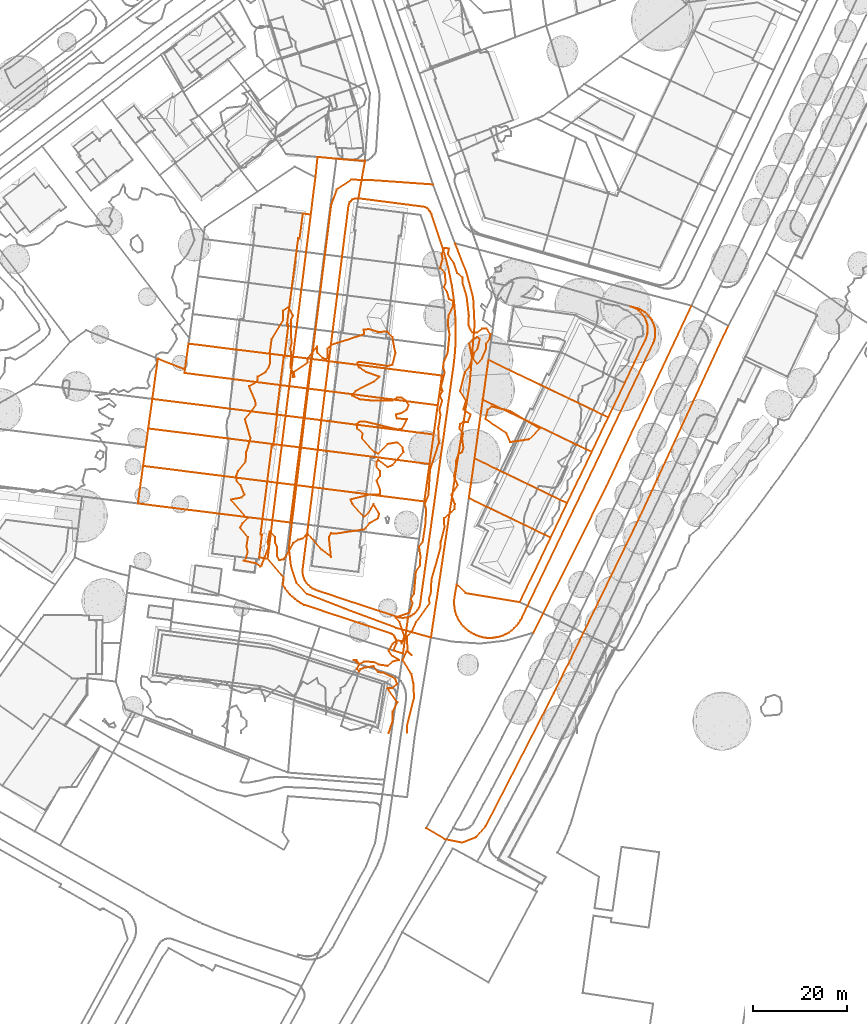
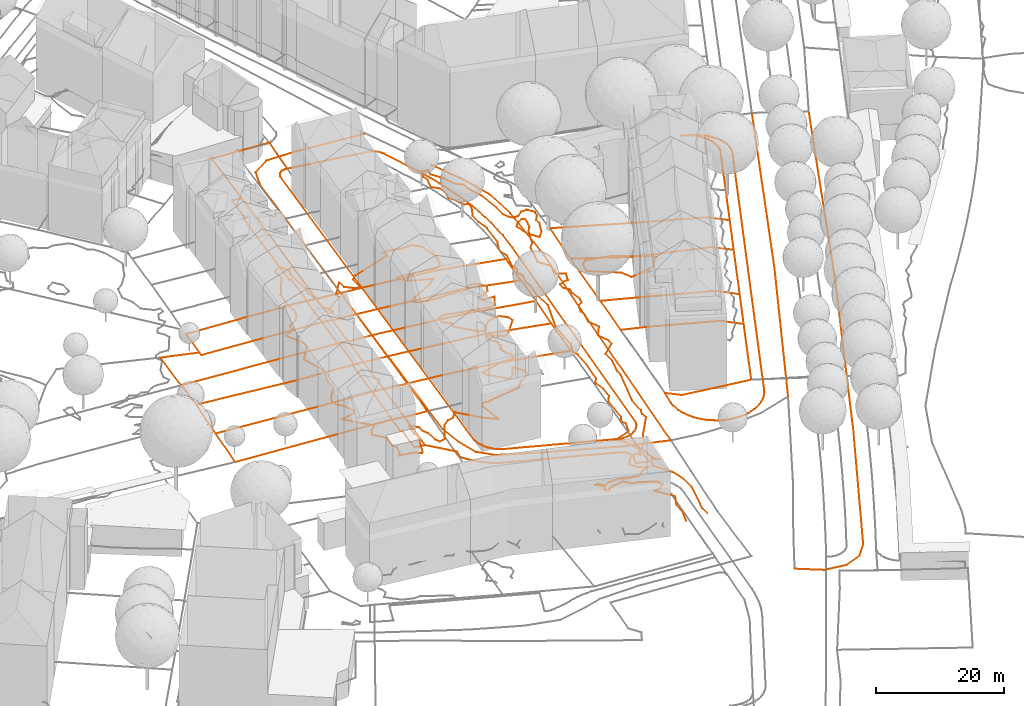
# Not in any storey, part 133 of 477: 15 geographic elements, 8 civil elements.
"""IFC4 model written with IfcOpenShell, lengths in metres."""

import ifcopenshell
import ifcopenshell.guid

model = None  # the IFC model being written
_history = None  # IfcOwnerHistory: only IFC2X3 demands one
_inside = {}  # id of a spatial element -> (the spatial element, [elements in it])
_under = {}  # id of a project, library or spatial element -> (it, [spatial elements below it])
_declared = {}  # id of a project -> (the project, [libraries it declares])
_typed = {}  # id of a type object -> (the type object, [elements of that type])
_made_of = {}  # id of a material, layer set ... -> (it, [elements and type objects made of it])


def new_model(schema):
    """Start an empty IFC model of exactly this schema.

    Asked for "IFC4X3", IfcOpenShell would pick the latest addendum, in which some entities
    have other attributes; the version numbers below select the first issue.
    IFC2X3 requires an IfcOwnerHistory on every rooted entity: one is made here for all.
    """
    global model, _history
    if schema == "IFC4X3":
        model = ifcopenshell.file(schema_version=(4, 3, 0, 0))
    else:
        model = ifcopenshell.file(schema=schema)
    _inside.clear()
    _under.clear()
    _declared.clear()
    _typed.clear()
    _made_of.clear()
    _history = None
    if model.schema == "IFC2X3":
        org = make("IfcOrganization", Name="unknown")
        user = make(
            "IfcPersonAndOrganization",
            ThePerson=make("IfcPerson", FamilyName="unknown"),
            TheOrganization=org,
        )
        app = make(
            "IfcApplication",
            ApplicationDeveloper=org,
            Version="unknown",
            ApplicationFullName="unknown",
            ApplicationIdentifier="unknown",
        )
        _history = make(
            "IfcOwnerHistory",
            OwningUser=user,
            OwningApplication=app,
            ChangeAction="ADDED",
            CreationDate=0,
        )
    return model


def make(cls, **values):
    """One entity of the class cls with the attributes given. An attribute that is None is left unset."""
    return model.create_entity(
        cls, **{name: value for name, value in values.items() if value is not None}
    )


def entity(cls, *values):
    """Any entity or typed value of the class cls, its attributes in the order of the schema. None: left unset."""
    e = model.create_entity(cls)
    for i, value in enumerate(values):
        if value is not None:
            e[i] = value
    return e


def rooted(cls, **values):
    """An entity with a GlobalId (a new one), such as an element, a storey or a relation."""
    return make(cls, GlobalId=ifcopenshell.guid.new(), OwnerHistory=_history, **values)


def si_unit(unit_type, name, prefix=None):
    """IfcSIUnit, for example si_unit("LENGTHUNIT", "METRE", prefix="MILLI")."""
    return make("IfcSIUnit", UnitType=unit_type, Prefix=prefix, Name=name)


def assignment(units):
    """IfcUnitAssignment: the units of a project."""
    return None if units is None else make("IfcUnitAssignment", Units=units)


def point(xyz):
    """IfcCartesianPoint."""
    return None if xyz is None else make("IfcCartesianPoint", Coordinates=xyz)


def direction(xyz):
    """IfcDirection."""
    return None if xyz is None else make("IfcDirection", DirectionRatios=xyz)


def frame(location, z_axis=None, x_axis=None):
    """IfcAxis2Placement3D, a coordinate frame: its origin and axes. An axis left out is left unset."""
    return make(
        "IfcAxis2Placement3D",
        Location=point(location),
        Axis=direction(z_axis),
        RefDirection=direction(x_axis),
    )


def origin_with_axes():
    """The frame at (0, 0, 0) with the z axis (0, 0, 1) and the x axis (1, 0, 0) written out."""
    return frame((0.0, 0.0, 0.0), z_axis=(0.0, 0.0, 1.0), x_axis=(1.0, 0.0, 0.0))


def place(relative_to, where):
    """IfcLocalPlacement: puts the frame where relative to a parent placement (None: the world)."""
    return make(
        "IfcLocalPlacement", PlacementRelTo=relative_to, RelativePlacement=where
    )


def context(
    kind, dimensions, precision=None, world=None, true_north=None, identifier=None
):
    """IfcGeometricRepresentationContext, for example the 3D "Model" context."""
    return make(
        "IfcGeometricRepresentationContext",
        ContextIdentifier=identifier,
        ContextType=kind,
        CoordinateSpaceDimension=dimensions,
        Precision=precision,
        WorldCoordinateSystem=world,
        TrueNorth=true_north,
    )


def subcontext(parent, identifier, kind, view, scale=None):
    """IfcGeometricRepresentationSubContext, for example "Body" below "Model"."""
    return make(
        "IfcGeometricRepresentationSubContext",
        ContextIdentifier=identifier,
        ContextType=kind,
        ParentContext=parent,
        TargetScale=scale,
        TargetView=view,
    )


def project(units=None, contexts=None):
    """IfcProject with its units and contexts."""
    return rooted(
        "IfcProject",
        Name="project",
        RepresentationContexts=contexts,
        UnitsInContext=assignment(units),
    )


def spatial(cls, under=None, at=None, **own):
    """A site, building, storey or space (cls), placed at a placement, below another one or the project."""
    s = rooted(cls, ObjectPlacement=at, **own)
    if under is not None:
        _under.setdefault(under.id(), (under, []))[1].append(s)
    return s


def shape(context_of_items, identifier, shape_type, items):
    """IfcShapeRepresentation: the items that make up one representation, for example the "Body"."""
    return make(
        "IfcShapeRepresentation",
        ContextOfItems=context_of_items,
        RepresentationIdentifier=identifier,
        RepresentationType=shape_type,
        Items=items,
    )


def made_of(thing, what):
    """Note that an element or type object is made of a material, layer set ...; save() writes the relation."""
    if what is not None:
        _made_of.setdefault(what.id(), (what, []))[1].append(thing)
    return thing


def element(
    cls,
    number,
    at=None,
    inside=None,
    cuts=None,
    type_object=None,
    material=None,
    context=None,
    identifier="Body",
    shape_type=None,
    held_by="IfcProductDefinitionShape",
    body=None,
    shapes=None,
    **own,
):
    """One element of the class cls, such as IfcWall. Its Tag is "e" and its number.

    at: its placement. inside: the storey or other place that contains it. cuts: it is an
    opening in that element (IfcRelVoidsElement). A single representation is given by context,
    identifier, shape_type and body (its items); several are given by shapes. held_by: the class
    of the entity that holds the representations. save() writes the other relations.
    """
    e = rooted(cls, Tag="e%d" % number, ObjectPlacement=at, **own)
    if body is not None:
        shapes = [shape(context, identifier, shape_type, body)]
    if shapes is not None:
        e.Representation = make(held_by, Representations=shapes)
    if inside is not None:
        _inside.setdefault(inside.id(), (inside, []))[1].append(e)
    if cuts is not None:
        rooted(
            "IfcRelVoidsElement", RelatingBuildingElement=cuts, RelatedOpeningElement=e
        )
    if type_object is not None:
        _typed.setdefault(type_object.id(), (type_object, []))[1].append(e)
    return made_of(e, material)


def aggregate(whole, parts):
    """IfcRelAggregates: a whole, such as a stair, and the parts it consists of."""
    return rooted("IfcRelAggregates", RelatingObject=whole, RelatedObjects=parts)


def save(model, path):
    """Write the relations noted so far, then the file.

    IfcRelAggregates (storeys below a building ...), IfcRelContainedInSpatialStructure (elements
    in a storey), IfcRelDefinesByType, IfcRelAssociatesMaterial and IfcRelDeclares: one each for
    every whole, place, type object, material and project.
    """
    for whole, parts in _under.values():
        aggregate(whole, parts)
    for where, things in _inside.values():
        rooted(
            "IfcRelContainedInSpatialStructure",
            RelatedElements=things,
            RelatingStructure=where,
        )
    for kind, things in _typed.values():
        rooted("IfcRelDefinesByType", RelatedObjects=things, RelatingType=kind)
    for what, things in _made_of.values():
        rooted("IfcRelAssociatesMaterial", RelatedObjects=things, RelatingMaterial=what)
    for by, libraries in _declared.values():
        rooted("IfcRelDeclares", RelatingContext=by, RelatedDefinitions=libraries)
    model.write(path)


model = new_model("IFC4")

# Units and contexts
model_context = context("Model", 3, precision=1e-05, world=origin_with_axes())
body_context = subcontext(model_context, "Body", "Model", "MODEL_VIEW")
ifc_project = project(units=[si_unit("AREAUNIT", "SQUARE_METRE"), si_unit("LENGTHUNIT", "METRE")], contexts=[model_context])

# Sites
site_1_placement = place(None, origin_with_axes())
site_1 = spatial("IfcSite", under=ifc_project, at=site_1_placement, Name="Topoexport Site")
site_2_placement = place(site_1_placement, origin_with_axes())
site_2 = spatial("IfcSite", under=site_1, at=site_2_placement, Name="TPX_ROADS")

# Civil elements
civil_element_1_placement = place(site_2_placement, frame((480.8617320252, 18.8857425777, 501.898), z_axis=(0.0, 0.0, 1.0), x_axis=(1.0, 0.0, 0.0)))
element("IfcCivilElement", 1, at=civil_element_1_placement, inside=site_2, Name="Road 96", ObjectType="ROAD", context=body_context, shape_type="GeometricCurveSet", body=[
    entity("IfcGeometricCurveSet", [entity("IfcIndexedPolyCurve", entity("IfcCartesianPointList3D", [[0.0, 0.0, 0.0], [2.7899999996, 18.6489994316, 0.008], [5.432, 36.2699988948, -0.042], [8.2219999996, 53.8909983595, -0.147], [9.2509999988, 66.2259979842, -0.063], [8.956999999, 72.0999978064, 0.001], [7.4890000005, 77.5339976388, -0.049], [5.138999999, 83.553997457, -0.014]]))]),
])
civil_element_2_placement = place(site_2_placement, frame((450.7577320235, 37.9757419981, 502.976), z_axis=(0.0, 0.0, 1.0), x_axis=(1.0, 0.0, 0.0)))
element("IfcCivilElement", 2, at=civil_element_2_placement, inside=site_2, Name="Road 97", ObjectType="ROAD", context=body_context, shape_type="GeometricCurveSet", body=[
    entity("IfcGeometricCurveSet", [entity("IfcIndexedPolyCurve", entity("IfcCartesianPointList3D", [[30.1040000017, -19.0899994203, -1.078], [22.7609999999, -17.0339994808, -0.903], [11.7480000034, -12.921999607, -0.621], [3.819000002, -9.8389997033, -0.308], [1.6150000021, -7.488999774, -0.338], [0.4410000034, -3.9649998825, -0.097], [0.0, 0.0, 0.0], [4.8460000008, 39.9409987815, -0.148], [8.9580000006, 72.5409977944, -0.481], [10.1330000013, 75.9179976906, -0.6], [13.2160000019, 77.9739976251, -0.737], [18.2090000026, 77.8279976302, -0.707], [30.5440000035, 76.9459976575, -1.027]]))]),
])
civil_element_3_placement = place(site_2_placement, frame((479.832732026, -21.4962561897, 502.279), z_axis=(0.0, 0.0, 1.0), x_axis=(1.0, 0.0, 0.0)))
element("IfcCivilElement", 3, at=civil_element_3_placement, inside=site_2, Name="Road 117", ObjectType="ROAD", context=body_context, shape_type="GeometricCurveSet", body=[
    entity("IfcGeometricCurveSet", [entity("IfcIndexedPolyCurve", entity("IfcCartesianPointList3D", [[64.0240000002, 106.4619967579, 0.136], [44.6409999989, 64.610998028, 0.075], [27.0199999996, 28.4869991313, -0.175], [12.6290000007, 0.4409999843, -0.039], [10.5729999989, -1.9089999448, -0.045], [7.6359999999, -3.0839999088, -0.059], [3.9649999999, -2.3489999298, -0.191], [0.0, 0.0, 0.0]]))]),
])
civil_element_4_placement = place(site_2_placement, frame((502.5807320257, 19.9217425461, 502.023), z_axis=(0.0, 0.0, 1.0), x_axis=(1.0, 0.0, 0.0)))
element("IfcCivilElement", 4, at=civil_element_4_placement, inside=site_2, Name="Road 118", ObjectType="ROAD", context=body_context, shape_type="GeometricCurveSet", body=[
    entity("IfcGeometricCurveSet", [entity("IfcIndexedPolyCurve", entity("IfcCartesianPointList3D", [[33.4930000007, 69.3029978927, 0.261], [15.432, 30.9769990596, 0.241], [0.0, 0.0, 0.0]]))]),
])

# Site
site_3_placement = place(site_1_placement, origin_with_axes())
site_3 = spatial("IfcSite", under=site_1, at=site_3_placement, Name="TPX_ROADS_OUTLINES")

# Civil elements
civil_element_5_placement = place(site_3_placement, frame((444.4347320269, 35.8527160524, 503.0549278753), z_axis=(0.0, 0.0, 1.0), x_axis=(1.0, 0.0, 0.0)))
element("IfcCivilElement", 5, at=civil_element_5_placement, inside=site_3, Name="Roads Outline 118", ObjectType="ROAD", context=body_context, shape_type="GeometricCurveSet", body=[
    entity("IfcGeometricCurveSet", [entity("IfcIndexedPolyCurve", entity("IfcCartesianPointList3D", [[0.0, 0.0, 0.0], [0.6129999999, 4.821, 0.0140262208], [0.2959999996, 4.861, 0.0262642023], [0.7139999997, 8.152, 0.0771060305], [1.7249999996, 16.105, 0.1620143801], [2.7049999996, 23.817, 0.1384099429], [3.0209999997, 23.777, 0.1314965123], [3.0529999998, 24.0249999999, 0.1304778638], [3.8219999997, 30.28, 0.0889115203], [3.8529999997, 30.5279999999, 0.0824403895], [3.7039999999, 30.547, 0.0894626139], [4.4699999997, 36.551, 0.0671671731], [5.236, 42.5530000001, 0.0344566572], [5.4049999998, 42.5319999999, 0.0215979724], [5.4350000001, 42.791, 0.0216717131], [6.1689999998, 49.051, -0.03255837], [6.1939999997, 49.2679999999, -0.0415659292], [5.8969999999, 49.307, -0.0056380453], [6.9039999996, 57.0430000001, -0.1713291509], [7.9359999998, 64.98, -0.3282861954], [8.2939999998, 67.7220000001, -0.3507769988], [8.602, 67.683, -0.3688636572], [9.2659999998, 72.9110000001, -0.4470955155], [10.9529999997, 72.696, -0.5103540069], [1.8169999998, -0.2309999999, -0.1125126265], [0.0, 0.0, 0.0]]))]),
])
civil_element_6_placement = place(site_3_placement, frame((453.6327320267, 33.1347160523, 502.8728551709), z_axis=(0.0, 0.0, 1.0), x_axis=(1.0, 0.0, 0.0)))
element("IfcCivilElement", 6, at=civil_element_6_placement, inside=site_3, Name="Roads Outline 119", ObjectType="ROAD", context=body_context, shape_type="GeometricCurveSet", body=[
    entity("IfcGeometricCurveSet", [entity("IfcIndexedPolyCurve", entity("IfcCartesianPointList3D", [[0.0, 0.0, 0.0], [9.7450000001, 77.3050000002, -0.2529599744], [9.8470000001, 77.6740000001, -0.2523965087], [10.0219999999, 78.0150000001, -0.2509386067], [10.2629999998, 78.3130000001, -0.2525505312], [10.5600000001, 78.5560000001, -0.2573419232], [10.8360000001, 78.706, -0.2608742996], [11.1340000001, 78.807, -0.2657251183], [11.4440000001, 78.8570000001, -0.2707743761], [11.7579999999, 78.8540000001, -0.2734145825], [11.8569999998, 78.841, -0.2737336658], [25.591, 77.0930000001, -0.8043729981], [26.0019999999, 76.956, -0.8041689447], [26.3810000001, 76.7470000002, -0.8081161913], [26.716, 76.473, -0.8157690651], [26.966, 76.1870000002, -0.8231526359], [27.1680000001, 75.8660000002, -0.834665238], [27.3169999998, 75.517, -0.8480266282], [29.807, 68.121, -0.8791846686], [30.372, 66.196, -0.9032363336], [30.8709999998, 64.2520000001, -0.9307406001], [31.3029999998, 62.2930000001, -0.9398216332], [31.6689999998, 60.3200000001, -0.9766558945], [31.9530000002, 58.4510000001, -0.9014641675], [32.1770000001, 56.574, -0.9052382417], [32.341, 54.6910000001, -0.9534339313], [32.4530000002, 52.7830000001, -0.9686429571], [32.497, 50.8730000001, -0.9599198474], [32.4729999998, 48.9620000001, -0.9749831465], [32.3879999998, 47.1500000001, -0.9447301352], [32.2409999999, 45.3430000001, -0.9865192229], [32.034, 43.5410000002, -0.9727612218], [24.9339999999, -7.1439999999, -0.9177699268], [24.7769999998, -7.6429999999, -0.9108936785], [24.554, -8.115, -0.9020539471], [24.2680000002, -8.5529999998, -0.8958583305], [23.9249999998, -8.9469999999, -0.8930536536], [23.5320000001, -9.291, -0.8872022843], [23.0950000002, -9.578, -0.8980385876], [22.7510000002, -9.75, -0.9084242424], [22.392, -9.8859999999, -0.9149869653], [21.8569999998, -10.0159999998, -0.9217474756], [21.3089999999, -10.0689999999, -0.9202105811], [20.7599999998, -10.0419999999, -0.9041667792], [20.219, -9.936, -0.8851758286], [19.7000000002, -9.754, -0.873610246], [3.1669999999, -4.3069999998, -0.2186617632], [2.6340000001, -4.1059999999, -0.182743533], [2.1310000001, -3.838, -0.1767513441], [1.6660000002, -3.5089999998, -0.2055927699], [1.247, -3.1239999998, -0.1520243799], [0.8799999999, -2.6889999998, -0.1128639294], [0.571, -2.21, -0.0935155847], [0.3229999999, -1.6899999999, -0.053530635], [0.1430000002, -1.142, -0.033561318], [0.0350000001, -0.5759999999, -0.0150887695], [0.0, 0.0, 0.0]]))]),
])
civil_element_7_placement = place(site_3_placement, frame((485.7837320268, 26.0037160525, 502.0841980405), z_axis=(0.0, 0.0, 1.0), x_axis=(1.0, 0.0, 0.0)))
element("IfcCivilElement", 7, at=civil_element_7_placement, inside=site_3, Name="Roads Outline 125", ObjectType="ROAD", context=body_context, shape_type="GeometricCurveSet", body=[
    entity("IfcGeometricCurveSet", [entity("IfcIndexedPolyCurve", entity("IfcCartesianPointList3D", [[0.0749999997, 1.49, -0.0323826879], [0.5419999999, 4.156, 0.0673335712], [2.4610000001, 2.2959999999, 0.1408554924], [13.8900000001, 0.3959999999, 0.2163383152], [20.4309999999, 14.0759999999, 0.2321996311], [23.9210000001, 21.3659999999, 0.2629214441], [29.122, 32.236, 0.3074544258], [32.6319999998, 39.557, 0.2896248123], [36.1230000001, 46.8469999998, 0.3168073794], [40.5430000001, 56.0969999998, 0.4121495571], [40.7760000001, 56.672, 0.4549622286], [40.9350000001, 57.2719999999, 0.4071513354], [41.02, 57.8859999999, 0.378488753], [41.0269999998, 58.507, 0.3728632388], [40.9569999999, 59.1229999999, 0.3658315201], [40.8119999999, 59.727, 0.3653367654], [40.5929999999, 60.307, 0.3388194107], [40.3029999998, 60.855, 0.3306956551], [39.9469999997, 61.3639999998, 0.3953893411], [39.531, 61.824, 0.4563623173], [39.0609999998, 62.2289999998, 0.4477691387], [38.5439999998, 62.5729999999, 0.4165176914], [37.9890000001, 62.851, 0.4214735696], [37.4040000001, 63.057, 0.4447862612], [38.193, 62.845, 0.3885371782], [38.764, 62.6969999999, 0.3486701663], [39.3169999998, 62.49, 0.3325325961], [39.844, 62.2239999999, 0.2862632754], [40.3399999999, 61.9039999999, 0.1924148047], [40.7990000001, 61.5329999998, 0.2124003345], [41.216, 61.115, 0.2141715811], [41.585, 60.655, 0.1992605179], [41.9040000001, 60.1579999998, 0.2272557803], [42.1859999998, 59.5889999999, 0.2379409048], [42.3999999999, 58.9909999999, 0.2385093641], [42.5439999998, 58.372, 0.2416686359], [42.6170000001, 57.7409999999, 0.2453520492], [42.6170000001, 57.1059999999, 0.2793848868], [42.5439999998, 56.4749999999, 0.3025620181], [42.3989999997, 55.8569999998, 0.2903058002], [42.1839999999, 55.2589999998, 0.3103747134], [15.5209999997, -0.3910000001, 0.1936643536], [14.3449999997, -2.845, 0.1894626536], [14.0189999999, -3.4710000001, 0.1919606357], [13.6359999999, -4.0630000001, 0.1893932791], [13.199, -4.6170000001, 0.1862486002], [12.7119999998, -5.128, 0.1715951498], [12.179, -5.5900000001, 0.1682015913], [11.605, -6.0, 0.1521191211], [10.9939999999, -6.355, 0.1307233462], [10.3539999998, -6.6500000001, 0.1076790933], [9.6880000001, -6.885, 0.0934804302], [9.0039999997, -7.0550000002, 0.0710395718], [8.3059999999, -7.1610000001, 0.0352761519], [7.6030000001, -7.2010000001, 0.0426996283], [6.8999999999, -7.1740000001, 0.0342207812], [6.202, -7.0820000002, 0.0168867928], [5.5150000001, -6.925, 0.0004825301], [4.8470000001, -6.7040000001, -0.0096058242], [4.202, -6.4210000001, -0.0227687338], [3.5860000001, -6.0800000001, 0.0065387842], [3.0049999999, -5.682, 0.0062379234], [2.4639999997, -5.2310000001, -0.0271204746], [1.9679999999, -4.7320000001, -0.0134537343], [1.4920000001, -4.1560000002, -0.014156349], [1.0759999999, -3.537, -0.0073834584], [0.7220000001, -2.8790000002, 0.0052570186], [0.4359999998, -2.1900000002, 0.006376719], [0.2179999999, -1.4750000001, -0.0075940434], [0.0719999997, -0.743, 0.0042843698], [0.0, 0.0, 0.0], [0.0, 0.747, -0.0216908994], [0.0749999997, 1.49, -0.0323826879]]))]),
])
civil_element_8_placement = place(site_3_placement, frame((446.2517320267, 35.6217160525, 502.9424152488), z_axis=(0.0, 0.0, 1.0), x_axis=(1.0, 0.0, 0.0)))
element("IfcCivilElement", 8, at=civil_element_8_placement, inside=site_3, Name="Roads Outline 142", ObjectType="ROAD", context=body_context, shape_type="GeometricCurveSet", body=[
    entity("IfcGeometricCurveSet", [entity("IfcIndexedPolyCurve", entity("IfcCartesianPointList3D", [[0.0, 0.0, 0.0], [9.1359999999, 72.9269999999, -0.3978413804], [10.122, 80.808, -0.4845504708], [10.5720000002, 85.139, -0.7922469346], [14.5720000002, 84.7589999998, -0.6802024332], [16.3799999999, 84.591, -0.6472827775], [20.2069999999, 84.348, -0.690236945], [20.409, 84.3339999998, -0.6953385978], [20.6120000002, 84.3389999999, -0.7013848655], [20.6010000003, 84.199, -0.6944927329], [19.2379999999, 76.3539999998, -0.3432937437], [19.139, 76.3669999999, -0.3429746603], [18.8250000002, 76.3699999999, -0.340334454], [18.5150000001, 76.3199999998, -0.3352851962], [18.2170000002, 76.2189999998, -0.3304343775], [17.9410000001, 76.0689999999, -0.3269020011], [17.6439999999, 75.8259999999, -0.3221106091], [17.4029999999, 75.5279999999, -0.3204986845], [17.2280000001, 75.1869999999, -0.3219565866], [17.1260000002, 74.818, -0.3225200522], [7.3810000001, -2.4870000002, -0.0695600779], [7.4160000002, -3.0630000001, -0.0846488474], [7.5240000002, -3.6290000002, -0.1031213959], [7.7039999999, -4.1770000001, -0.1230907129], [7.952, -4.6970000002, -0.1630756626], [8.2609999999, -5.176, -0.1824240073], [8.628, -5.611, -0.2215844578], [9.0470000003, -5.996, -0.2751528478], [9.5120000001, -6.3250000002, -0.246311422], [10.0150000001, -6.5930000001, -0.2523036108], [10.548, -6.794, -0.2882218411], [27.0810000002, -12.2410000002, -0.9431703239], [27.6000000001, -12.4230000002, -0.9547359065], [28.1409999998, -12.5290000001, -0.9737268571], [28.6899999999, -12.5560000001, -0.9897706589], [29.2379999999, -12.503, -0.9913075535], [29.773, -12.3730000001, -0.9845470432], [28.6830000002, -20.1430000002, -0.9363403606], [26.6890000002, -19.4970000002, -0.9745874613], [27.2719999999, -17.8720000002, -0.9566055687], [27.27, -17.4910000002, -0.9515713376], [27.196, -17.118, -0.9471228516], [27.054, -16.7650000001, -0.9390478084], [26.8790000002, -16.486, -0.9265239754], [26.6609999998, -16.24, -0.910034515], [26.406, -16.0330000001, -0.8954364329], [26.1200000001, -15.8700000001, -0.8820961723], [7.6869999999, -9.787, -0.1602901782], [7.003, -9.4200000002, -0.1835348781], [6.3510000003, -8.9990000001, -0.1578448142], [5.7779999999, -8.5650000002, -0.1272363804], [5.2400000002, -8.0890000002, -0.1346529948], [4.7379999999, -7.574, -0.1124284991], [4.1770000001, -6.9270000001, -0.0920350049], [3.665, -6.24, -0.0879605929], [3.2069999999, -5.517, -0.0814330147], [3.4210000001, -3.9600000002, -0.0360167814], [0.0, 0.0, 0.0]]))]),
])

# Site
site_4_placement = place(site_1_placement, origin_with_axes())
site_4 = spatial("IfcSite", under=site_1, at=site_4_placement, Name="TPX_CADASTRES")

# Geographic elements
geographic_element_1_placement = place(site_4_placement, frame((490.0977320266, 56.8397160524, 502.2080766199), z_axis=(0.0, 0.0, 1.0), x_axis=(1.0, 0.0, 0.0)))
element("IfcGeographicElement", 9, at=geographic_element_1_placement, inside=site_4, Name="Cadastre 135", PredefinedType="NOTDEFINED", context=body_context, shape_type="GeometricCurveSet", body=[
    entity("IfcGeometricCurveSet", [entity("IfcIndexedPolyCurve", entity("IfcCartesianPointList3D", [[0.0, 0.0, 0.0], [1.7510000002, 12.45, -0.1260882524], [10.4700000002, 8.2709999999, -0.3193070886], [21.5610000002, 2.956, 0.8949171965], [24.8080000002, 1.4000000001, 0.1835758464], [19.6070000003, -9.47, 0.1390428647], [16.3659999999, -7.9039999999, 0.9678865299], [5.3300000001, -2.574, 0.3661411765], [0.0, 0.0, 0.0]]))]),
])
geographic_element_2_placement = place(site_4_placement, frame((419.8427320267, 55.2587160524, 502.4970550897), z_axis=(0.0, 0.0, 1.0), x_axis=(1.0, 0.0, 0.0)))
element("IfcGeographicElement", 10, at=geographic_element_2_placement, inside=site_4, Name="Cadastre 178", PredefinedType="NOTDEFINED", context=body_context, shape_type="GeometricCurveSet", body=[
    entity("IfcGeometricCurveSet", [entity("IfcIndexedPolyCurve", entity("IfcCartesianPointList3D", [[0.0, 0.0, 0.0], [0.54, 3.95, 0.1104670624], [1.091, 7.9399999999, 0.3101052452], [17.4020000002, 5.899, 0.325993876], [27.577, 4.6270000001, 0.6902176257], [29.4419999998, 4.3929999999, 0.6739560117], [33.2179999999, 3.9210000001, 0.6945416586], [32.2069999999, -4.0389999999, 0.6980586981], [28.4330000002, -3.5649999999, 0.6525538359], [26.2799999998, -3.2959999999, 0.7189436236], [17.1740000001, -2.1539999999, 0.430070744], [0.0, 0.0, 0.0]]))]),
])
geographic_element_3_placement = place(site_4_placement, frame((418.7427320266, 47.2987160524, 502.2645492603), z_axis=(0.0, 0.0, 1.0), x_axis=(1.0, 0.0, 0.0)))
element("IfcGeographicElement", 11, at=geographic_element_3_placement, inside=site_4, Name="Cadastre 179", PredefinedType="NOTDEFINED", context=body_context, shape_type="GeometricCurveSet", body=[
    entity("IfcGeometricCurveSet", [entity("IfcIndexedPolyCurve", entity("IfcCartesianPointList3D", [[0.0, 0.0, 0.0], [1.1000000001, 7.96, 0.2325058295], [18.2740000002, 5.8060000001, 0.6625765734], [27.3799999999, 4.6640000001, 0.9514494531], [29.5330000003, 4.395, 0.8850596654], [33.307, 3.9210000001, 0.9305645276], [32.307, -4.03, 0.8305754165], [28.5360000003, -3.5600000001, 0.7834388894], [26.3530000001, -3.287, 0.8654896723], [17.2940000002, -2.1569999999, 0.6070282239], [0.0, 0.0, 0.0]]))]),
])
geographic_element_4_placement = place(site_4_placement, frame((488.8967320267, 48.4297160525, 502.1975362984), z_axis=(0.0, 0.0, 1.0), x_axis=(1.0, 0.0, 0.0)))
element("IfcGeographicElement", 12, at=geographic_element_4_placement, inside=site_4, Name="Cadastre 181", PredefinedType="NOTDEFINED", context=body_context, shape_type="GeometricCurveSet", body=[
    entity("IfcGeometricCurveSet", [entity("IfcIndexedPolyCurve", entity("IfcCartesianPointList3D", [[0.0, 0.0, 0.0], [1.2009999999, 8.4099999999, 0.0105403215], [6.531, 5.8359999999, 0.3766814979], [17.5669999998, 0.5060000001, 0.9784268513], [20.8080000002, -1.0600000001, 0.1495831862], [17.318, -8.3500000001, 0.1188613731], [14.0839999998, -6.791, 0.9053699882], [3.6749999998, -1.7720000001, 0.3665988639], [0.0, 0.0, 0.0]]))]),
])
geographic_element_5_placement = place(site_4_placement, frame((452.0497320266, 51.2197160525, 503.1951137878), z_axis=(0.0, 0.0, 1.0), x_axis=(1.0, 0.0, 0.0)))
element("IfcGeographicElement", 13, at=geographic_element_5_placement, inside=site_4, Name="Cadastre 184", PredefinedType="NOTDEFINED", context=body_context, shape_type="GeometricCurveSet", body=[
    entity("IfcGeometricCurveSet", [entity("IfcIndexedPolyCurve", entity("IfcCartesianPointList3D", [[0.0, 0.0, 0.0], [1.0109999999, 7.96, -0.0035170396], [4.7850000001, 7.477, -0.0309835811], [6.6290000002, 7.2409999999, -0.0546581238], [16.8340000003, 5.9349999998, -0.1864666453], [28.5180000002, 4.4399999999, -1.2199965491], [27.4080000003, -3.49, -1.2337524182], [15.0090000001, -1.9110000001, -0.2226126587], [5.898, -0.7510000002, -0.0099981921], [3.7749999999, -0.4810000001, 0.0159298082], [0.0, 0.0, 0.0]]))]),
])
geographic_element_6_placement = place(site_4_placement, frame((420.9337320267, 63.1987160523, 502.807160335), z_axis=(0.0, 0.0, 1.0), x_axis=(1.0, 0.0, 0.0)))
element("IfcGeographicElement", 14, at=geographic_element_6_placement, inside=site_4, Name="Cadastre 204", PredefinedType="NOTDEFINED", context=body_context, shape_type="GeometricCurveSet", body=[
    entity("IfcGeometricCurveSet", [entity("IfcIndexedPolyCurve", entity("IfcCartesianPointList3D", [[0.0, 0.0, 0.0], [0.8700000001, 6.26, -0.4219569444], [17.071, 4.2240000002, 0.0797304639], [27.2930000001, 2.9380000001, 0.3387390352], [29.1379999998, 2.706, 0.277819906], [32.9169999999, 2.2310000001, 0.3329606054], [32.1269999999, -4.0189999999, 0.3844364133], [28.3509999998, -3.547, 0.3638507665], [26.486, -3.3129999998, 0.3801123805], [16.3110000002, -2.041, 0.0158886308], [0.0, 0.0, 0.0]]))]),
])
geographic_element_7_placement = place(site_4_placement, frame((421.8037320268, 69.4587160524, 502.3852033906), z_axis=(0.0, 0.0, 1.0), x_axis=(1.0, 0.0, 0.0)))
element("IfcGeographicElement", 15, at=geographic_element_7_placement, inside=site_4, Name="Cadastre 205", PredefinedType="NOTDEFINED", context=body_context, shape_type="GeometricCurveSet", body=[
    entity("IfcGeometricCurveSet", [entity("IfcIndexedPolyCurve", entity("IfcCartesianPointList3D", [[0.0, 0.0, 0.0], [1.1710000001, 8.52, -0.2973359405], [6.9099999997, 6.2410000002, 0.0406906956], [6.8100000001, 5.5010000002, 0.0328479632], [15.3909999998, 4.4200000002, 0.3765727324], [27.054, 2.9510000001, 0.7417938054], [29.0779999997, 2.696, 0.6461739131], [32.8479999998, 2.2210000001, 0.7118375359], [32.0469999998, -4.0289999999, 0.7549175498], [28.2679999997, -3.554, 0.6997768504], [26.423, -3.3219999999, 0.7606959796], [16.2009999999, -2.0359999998, 0.5016874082], [0.0, 0.0, 0.0]]))]),
])
geographic_element_8_placement = place(site_4_placement, frame((491.8487320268, 69.2897160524, 502.0819883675), z_axis=(0.0, 0.0, 1.0), x_axis=(1.0, 0.0, 0.0)))
element("IfcGeographicElement", 16, at=geographic_element_8_placement, inside=site_4, Name="Cadastre 206", PredefinedType="NOTDEFINED", context=body_context, shape_type="GeometricCurveSet", body=[
    entity("IfcGeometricCurveSet", [entity("IfcIndexedPolyCurve", entity("IfcCartesianPointList3D", [[0.0, 0.0, 0.0], [1.1899999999, 8.4200000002, 0.2729138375], [12.2379999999, 3.1310000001, 0.5793028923], [23.3300000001, -2.179, 1.0369620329], [26.5669999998, -3.7289999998, 0.2918344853], [23.057, -11.0499999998, 0.3096640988], [19.8100000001, -9.4939999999, 1.0210054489], [8.719, -4.179, -0.1932188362], [0.0, 0.0, 0.0]]))]),
])
geographic_element_9_placement = place(site_4_placement, frame((428.6137320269, 74.9597160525, 502.4180513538), z_axis=(0.0, 0.0, 1.0), x_axis=(1.0, 0.0, 0.0)))
element("IfcGeographicElement", 17, at=geographic_element_9_placement, inside=site_4, Name="Cadastre 211", PredefinedType="NOTDEFINED", context=body_context, shape_type="GeometricCurveSet", body=[
    entity("IfcGeometricCurveSet", [entity("IfcIndexedPolyCurve", entity("IfcCartesianPointList3D", [[0.0, 0.0, 0.0], [0.0999999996, 0.74, 0.0078427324], [0.861, 6.22, -0.0556646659], [10.9619999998, 4.9639999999, 0.3904180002], [21.173, 3.6939999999, 0.664717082], [23.0579999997, 3.459, 0.5239383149], [26.8279999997, 2.99, 0.6135678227], [26.0379999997, -3.28, 0.6789895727], [22.2679999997, -2.8050000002, 0.6133259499], [20.2439999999, -2.55, 0.7089458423], [8.5809999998, -1.081, 0.3437247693], [0.0, 0.0, 0.0]]))]),
])
geographic_element_10_placement = place(site_4_placement, frame((454.6517320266, 71.6797160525, 503.0970409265), z_axis=(0.0, 0.0, 1.0), x_axis=(1.0, 0.0, 0.0)))
element("IfcGeographicElement", 18, at=geographic_element_10_placement, inside=site_4, Name="Cadastre 215", PredefinedType="NOTDEFINED", context=body_context, shape_type="GeometricCurveSet", body=[
    entity("IfcGeometricCurveSet", [entity("IfcIndexedPolyCurve", entity("IfcCartesianPointList3D", [[0.0, 0.0, 0.0], [0.79, 6.27, -0.06542175], [4.5590000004, 5.7889999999, -0.0373477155], [6.4040000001, 5.554, -0.052456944], [16.6060000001, 4.2519999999, -0.1378186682], [28.5380000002, 2.73, -1.1408764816], [27.6570000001, -3.5600000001, -1.0903212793], [17.6800000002, -2.2760000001, -0.0645055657], [5.7520000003, -0.74, -0.0435331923], [3.7680000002, -0.4850000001, -0.0148936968], [0.0, 0.0, 0.0]]))]),
])
geographic_element_11_placement = place(site_4_placement, frame((453.8507320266, 65.4297160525, 503.1401209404), z_axis=(0.0, 0.0, 1.0), x_axis=(1.0, 0.0, 0.0)))
element("IfcGeographicElement", 19, at=geographic_element_11_placement, inside=site_4, Name="Cadastre 216", PredefinedType="NOTDEFINED", context=body_context, shape_type="GeometricCurveSet", body=[
    entity("IfcGeometricCurveSet", [entity("IfcIndexedPolyCurve", entity("IfcCartesianPointList3D", [[0.0, 0.0, 0.0], [0.801, 6.25, -0.0430800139], [4.5690000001, 5.7649999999, -0.0579737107], [6.5530000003, 5.51, -0.0866132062], [18.4810000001, 3.9739999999, -0.1075855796], [28.4580000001, 2.6899999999, -1.1334012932], [27.588, -3.51, -0.9850205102], [15.8140000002, -2.0120000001, -0.1901834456], [5.605, -0.713, -0.0495484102], [3.7800000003, -0.4810000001, -0.0184109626], [0.0, 0.0, 0.0]]))]),
])
geographic_element_12_placement = place(site_4_placement, frame((453.0607320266, 59.1797160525, 503.1915967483), z_axis=(0.0, 0.0, 1.0), x_axis=(1.0, 0.0, 0.0)))
element("IfcGeographicElement", 20, at=geographic_element_12_placement, inside=site_4, Name="Cadastre 217", PredefinedType="NOTDEFINED", context=body_context, shape_type="GeometricCurveSet", body=[
    entity("IfcGeometricCurveSet", [entity("IfcIndexedPolyCurve", entity("IfcCartesianPointList3D", [[0.0, 0.0, 0.0], [0.79, 6.25, -0.0514758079], [4.5700000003, 5.7689999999, -0.0698867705], [6.395, 5.537, -0.1010242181], [16.6040000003, 4.2379999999, -0.2416592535], [28.378, 2.74, -1.036496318], [27.5070000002, -3.52, -1.2164795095], [15.8230000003, -2.0250000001, -0.1829496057], [5.6180000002, -0.719, -0.0511410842], [3.7740000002, -0.483, -0.0274665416], [0.0, 0.0, 0.0]]))]),
])

# Site
site_5_placement = place(site_1_placement, origin_with_axes())
site_5 = spatial("IfcSite", under=site_1, at=site_5_placement, Name="TPX_CONTOUR_LINES")

# Geographic elements
geographic_element_13_placement = place(site_5_placement, frame((492.4079256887, 65.1707160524, 502.0), z_axis=(0.0, 0.0, 1.0), x_axis=(1.0, 0.0, 0.0)))
element("IfcGeographicElement", 21, at=geographic_element_13_placement, inside=site_5, Name="Contour Line 502.0 m", PredefinedType="NOTDEFINED", context=body_context, shape_type="GeometricCurveSet", body=[
    entity("IfcGeometricCurveSet", [entity("IfcIndexedPolyCurve", entity("IfcCartesianPointList3D", [[9.269806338, -4.2495854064, 0.0], [11.4860069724, -2.0, 0.0], [5.269806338, 1.723466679, 0.0], [1.269806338, 2.6886900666, 0.0], [0.4950966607, 2.0, 0.0], [0.0, 0.0, 0.0], [4.4612381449, -3.0, 0.0], [5.269806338, -4.8463085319, 0.0], [9.269806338, -4.2495854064, 0.0]]))]),
])
geographic_element_14_placement = place(site_5_placement, frame((438.4559052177, 48.1707160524, 503.0), z_axis=(0.0, 0.0, 1.0), x_axis=(1.0, 0.0, 0.0)))
element("IfcGeographicElement", 22, at=geographic_element_14_placement, inside=site_5, Name="Contour Line 503.0 m", PredefinedType="NOTDEFINED", context=body_context, shape_type="GeometricCurveSet", body=[
    entity("IfcGeometricCurveSet", [entity("IfcIndexedPolyCurve", entity("IfcCartesianPointList3D", [[6.4882360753, -14.0, 0.0], [6.221826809, -14.2223415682, 0.0], [5.221826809, -13.5312213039, 0.0], [2.6863709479, -13.0, 0.0], [3.221826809, -12.4721825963, 0.0], [3.5698931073, -11.0, 0.0], [3.3091939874, -10.0, 0.0], [3.5953492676, -8.0, 0.0], [1.949712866, -6.0, 0.0], [2.4602169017, -5.0, 0.0], [3.487998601, -4.0, 0.0], [0.0, 0.0, 0.0], [2.221826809, 0.4118507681, 0.0], [2.8614449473, 1.0, 0.0], [2.0531348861, 3.0, 0.0], [1.183770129, 4.0, 0.0], [1.1273146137, 5.0, 0.0], [1.5029188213, 6.0, 0.0], [3.1186923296, 8.0, 0.0], [3.2627049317, 10.0, 0.0], [4.1525278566, 13.0, 0.0], [2.9771987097, 17.0, 0.0], [5.2813608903, 20.0, 0.0], [5.1331101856, 21.0, 0.0], [3.8237376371, 24.0, 0.0], [5.5900086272, 25.0, 0.0], [5.6608374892, 26.0, 0.0], [7.3370004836, 27.0, 0.0], [8.0061046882, 28.0, 0.0], [8.3345482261, 29.0, 0.0], [8.2406302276, 31.0, 0.0], [8.6376370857, 34.0, 0.0], [11.0750514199, 38.0, 0.0], [11.0372456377, 40.0, 0.0], [12.221826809, 40.8018063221, 0.0], [13.1405877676, 39.0, 0.0], [12.7242642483, 38.0, 0.0], [12.8364414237, 33.0, 0.0], [12.5815720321, 32.0, 0.0], [12.8064992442, 31.0, 0.0], [12.6299518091, 28.0, 0.0], [13.1845862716, 27.0, 0.0], [13.221826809, 25.900373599, 0.0], [13.4613477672, 26.0, 0.0], [13.3280985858, 27.0, 0.0], [16.221826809, 28.9781249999, 0.0], [16.3207279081, 30.0, 0.0], [18.221826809, 32.4339622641, 0.0], [18.3343809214, 31.0, 0.0], [19.3842561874, 30.0, 0.0], [20.221826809, 29.6603665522, 0.0], [20.4866771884, 30.0, 0.0], [20.5204337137, 32.0, 0.0], [21.221826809, 32.7573577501, 0.0], [28.2568462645, 35.0, 0.0], [28.144307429, 36.0, 0.0], [29.221826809, 36.101141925, 0.0], [31.221826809, 35.5009848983, 0.0], [33.221826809, 35.5638730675, 0.0], [34.221826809, 34.3968627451, 0.0], [34.8750931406, 31.0, 0.0], [34.221826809, 28.5517529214, 0.0], [33.221826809, 28.2796725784, 0.0], [27.221826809, 29.1565533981, 0.0], [26.8096862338, 29.0, 0.0], [27.1419546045, 28.0, 0.0], [28.6398162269, 27.0, 0.0], [31.5119031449, 26.0, 0.0], [30.3254208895, 25.0, 0.0], [26.3948225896, 23.0, 0.0], [25.6442567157, 22.0, 0.0], [27.221826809, 21.2299270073, 0.0], [29.5245791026, 21.0, 0.0], [34.221826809, 20.9408099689, 0.0], [35.221826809, 21.5624434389, 0.0], [36.221826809, 21.5541746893, 0.0], [37.0611693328, 21.0, 0.0], [37.6912644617, 20.0, 0.0], [37.2034070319, 19.0, 0.0], [36.221826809, 18.3327841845, 0.0], [34.9601334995, 18.0, 0.0], [35.221826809, 17.1384015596, 0.0], [37.3181095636, 17.0, 0.0], [36.221826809, 14.925725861, 0.0], [35.221826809, 14.8440913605, 0.0], [28.221826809, 16.5374531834, 0.0], [27.221826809, 16.4438430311, 0.0], [26.6484002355, 16.0, 0.0], [26.7672813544, 15.0, 0.0], [27.9346473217, 14.0, 0.0], [27.7531700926, 13.0, 0.0], [30.4449673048, 10.0, 0.0], [31.221826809, 9.707165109, 0.0], [33.221826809, 11.7622468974, 0.0], [35.221826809, 12.1007905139, 0.0], [36.3748850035, 11.0, 0.0], [36.5546609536, 10.0, 0.0], [34.221826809, 7.3, 0.0], [33.221826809, 6.8518839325, 0.0], [31.221826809, 8.3653308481, 0.0], [30.9148573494, 8.0, 0.0], [30.8407467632, 7.0, 0.0], [31.6009990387, 6.0, 0.0], [31.5715535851, 5.0, 0.0], [30.9002581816, 4.0, 0.0], [31.6672030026, 2.0, 0.0], [31.6334023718, 1.0, 0.0], [29.221826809, 1.0034535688, 0.0], [25.3804744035, 0.0, 0.0], [25.7621493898, -1.0, 0.0], [28.221826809, -3.6705539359, 0.0], [29.221826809, -2.7744360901, 0.0], [30.221826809, -1.0051334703, 0.0], [31.4157333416, -3.0, 0.0], [31.1725851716, -4.0, 0.0], [29.404301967, -5.0, 0.0], [28.221826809, -6.3584541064, 0.0], [22.221826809, -7.2488789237, 0.0], [21.221826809, -7.1789883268, 0.0], [20.76213182, -8.0, 0.0], [21.221826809, -12.1930693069, 0.0], [19.221826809, -10.6293494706, 0.0], [16.221826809, -7.1879139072, 0.0], [15.221826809, -8.2982862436, 0.0], [14.221826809, -8.5237789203, 0.0], [13.221826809, -9.2438524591, 0.0], [11.221826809, -12.6814159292, 0.0], [10.221826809, -12.850877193, 0.0], [9.8396862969, -12.0, 0.0], [9.748020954, -10.0, 0.0], [9.3192019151, -9.0, 0.0], [9.4056666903, -8.0, 0.0], [8.221826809, -6.7661996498, 0.0], [7.8113050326, -9.0, 0.0], [8.0076929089, -10.0, 0.0], [6.4882360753, -14.0, 0.0]]))]),
])
geographic_element_15_placement = place(site_5_placement, frame((464.4911123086, 14.1707160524, 502.0), z_axis=(0.0, 0.0, 1.0), x_axis=(1.0, 0.0, 0.0)))
element("IfcGeographicElement", 23, at=geographic_element_15_placement, inside=site_5, Name="Contour Line 502.0 m", PredefinedType="NOTDEFINED", context=body_context, shape_type="GeometricCurveSet", body=[
    entity("IfcGeometricCurveSet", [entity("IfcIndexedPolyCurve", entity("IfcCartesianPointList3D", [[11.2759843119, -15.5, 0.0], [11.256815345, -14.0, 0.0], [12.7933424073, -8.0, 0.0], [12.6395320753, -5.0, 0.0], [12.2300263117, -3.0, 0.0], [10.3523951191, 0.0, 0.0], [11.1866197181, 1.8036036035, 0.0], [12.250761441, 1.0, 0.0], [11.4225504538, 2.0, 0.0], [11.2831714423, 5.0, 0.0], [12.2955691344, 6.0, 0.0], [13.1866197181, 7.9680672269, 0.0], [16.1035336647, 12.0, 0.0], [15.937509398, 13.0, 0.0], [16.3229371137, 14.0, 0.0], [16.4813364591, 17.0, 0.0], [18.4553620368, 24.0, 0.0], [18.4584317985, 25.0, 0.0], [19.2218056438, 28.0, 0.0], [19.162595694, 30.0, 0.0], [21.4059593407, 32.0, 0.0], [21.4349951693, 33.0, 0.0], [20.695208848, 35.0, 0.0], [22.0390448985, 37.0, 0.0], [21.2526095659, 39.0, 0.0], [21.7417527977, 41.0, 0.0], [21.6446842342, 42.0, 0.0], [22.1866197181, 43.6432038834, 0.0], [22.9482777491, 44.0, 0.0], [23.2523075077, 45.0, 0.0], [22.98164168, 47.0, 0.0], [23.1908786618, 48.0, 0.0], [22.4374788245, 49.0, 0.0], [22.5256729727, 50.0, 0.0], [23.1866197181, 50.3774923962, 0.0], [24.1866197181, 50.4309000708, 0.0], [24.7831786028, 52.0, 0.0], [23.2497628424, 53.0, 0.0], [23.7977946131, 55.0, 0.0], [22.5672334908, 57.0, 0.0], [23.5501299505, 61.0, 0.0], [24.4530392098, 62.0, 0.0], [25.1156359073, 64.0, 0.0], [24.4929833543, 67.0, 0.0], [25.1866197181, 67.8199892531, 0.0], [26.1866197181, 68.4007801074, 0.0], [26.7105202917, 68.0, 0.0], [26.2503401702, 66.0, 0.0], [25.5026691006, 65.0, 0.0], [25.2908244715, 64.0, 0.0], [26.1866197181, 62.7497109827, 0.0], [27.1866197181, 63.8403263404, 0.0], [28.0534132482, 66.0, 0.0], [28.0420681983, 67.0, 0.0], [28.755661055, 68.0, 0.0], [28.983210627, 69.0, 0.0], [28.1866197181, 70.1649289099, 0.0], [27.1866197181, 70.1882656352, 0.0], [26.1866197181, 69.3742387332, 0.0], [25.1866197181, 69.3666401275, 0.0], [24.722906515, 70.0, 0.0], [24.3424866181, 71.0, 0.0], [24.4068350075, 73.0, 0.0], [23.9440889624, 77.0, 0.0], [23.0613349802, 80.0, 0.0], [23.0226412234, 81.0, 0.0], [21.9244210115, 82.0, 0.0], [21.2816197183, 84.0, 0.0], [19.9709334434, 86.0, 0.0], [20.1866197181, 87.1898907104, 0.0], [19.1866197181, 87.3064798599, 0.0], [18.6630595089, 86.0, 0.0], [18.8455670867, 85.0, 0.0], [18.2989495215, 83.0, 0.0], [19.302303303, 82.0, 0.0], [19.5110522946, 80.0, 0.0], [19.1622764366, 79.0, 0.0], [19.8139057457, 78.0, 0.0], [20.1866197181, 76.4388405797, 0.0], [21.1194601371, 76.0, 0.0], [21.0432373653, 75.0, 0.0], [20.0760529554, 73.0, 0.0], [19.9959444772, 71.0, 0.0], [20.3141134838, 69.0, 0.0], [19.9110426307, 65.0, 0.0], [19.0270270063, 63.0, 0.0], [18.9620444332, 62.0, 0.0], [19.2827634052, 61.0, 0.0], [18.5387473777, 58.0, 0.0], [18.789879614, 57.0, 0.0], [18.3067610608, 56.0, 0.0], [18.7338913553, 55.0, 0.0], [18.1701054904, 53.0, 0.0], [18.3940046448, 52.0, 0.0], [17.9178836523, 49.0, 0.0], [18.0675005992, 46.0, 0.0], [16.1866197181, 40.3681377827, 0.0], [15.8587895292, 35.0, 0.0], [15.06204856, 33.0, 0.0], [15.3554982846, 32.0, 0.0], [15.2237931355, 29.0, 0.0], [14.6107034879, 25.0, 0.0], [13.8480749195, 24.0, 0.0], [14.1532692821, 22.0, 0.0], [14.0245856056, 20.0, 0.0], [13.1866197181, 18.7178968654, 0.0], [12.7751345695, 14.0, 0.0], [12.1049647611, 13.0, 0.0], [12.4811599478, 12.0, 0.0], [11.8174281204, 10.0, 0.0], [8.9009054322, 9.0, 0.0], [9.7277574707, 8.0, 0.0], [10.7531831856, 5.0, 0.0], [10.1866197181, 3.487804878, 0.0], [10.0250812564, 4.0, 0.0], [9.1866197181, 4.0889070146, 0.0], [8.1866197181, 3.3658536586, 0.0], [7.3916108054, 2.0, 0.0], [8.1866197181, 0.851979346, 0.0], [9.6151911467, 0.0, 0.0], [8.1866197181, -0.3801843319, 0.0], [7.1866197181, -1.2730696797, 0.0], [5.3167312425, -1.0, 0.0], [4.1866197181, -0.4211956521, 0.0], [2.1866197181, -0.4129335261, 0.0], [1.1866197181, -0.9161554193, 0.0], [0.5582887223, 0.0, 0.0], [0.0, 0.0, 0.0], [1.1314380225, -1.0, 0.0], [0.5616197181, -2.0, 0.0], [1.1866197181, -2.4448742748, 0.0], [1.4112290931, -2.0, 0.0], [2.1866197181, -1.6717651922, 0.0], [4.1866197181, -1.351678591, 0.0], [5.1866197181, -2.6004645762, 0.0], [6.1866197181, -2.7390710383, 0.0], [8.8140204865, -4.0, 0.0], [9.1866197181, -5.1328502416, 0.0], [8.1866197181, -5.9642324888, 0.0], [7.1238353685, -6.0, 0.0], [9.2444709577, -9.0, 0.0], [8.2807447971, -11.0, 0.0], [8.1866197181, -13.0641711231, 0.0], [7.404313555, -15.5, 0.0]]))]),
])

save(model, "model.ifc")
